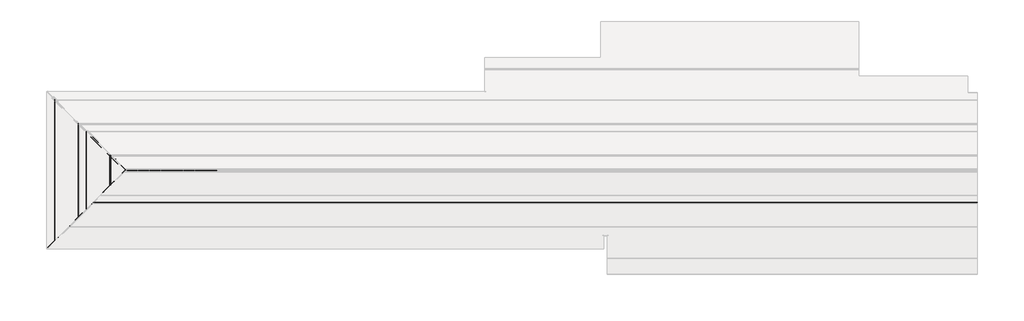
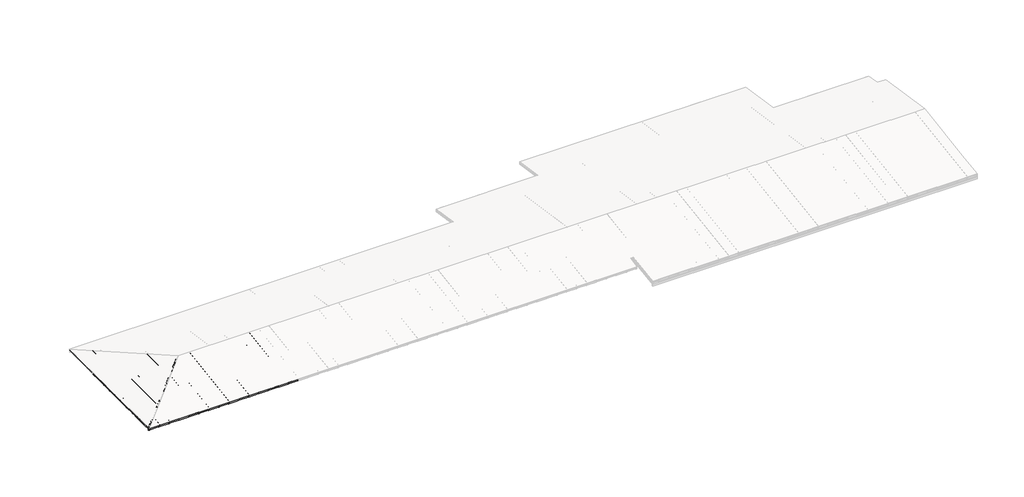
# One storey, part 1 of 5: 56 members, 37 plates.
"""IFC4 building model written with IfcOpenShell, lengths in millimetres."""

from ifc_helpers import new_model, si_unit, origin, place, context, project, spatial, transform, mapped, element, save
from components import rectangular_mullion_0ffdd734, rectangular_mullion_81e55232, rectangular_mullion_64da74fe, rectangular_mullion_0475a46f, rectangular_mullion_45a51e1d, rectangular_mullion_8cde0428, rectangular_mullion_8fe6ab02, rectangular_mullion_e4c4dc66, rectangular_mullion_57f3b6e2, rectangular_mullion_6c98cfdc, rectangular_mullion_e8735130, rectangular_mullion_fa2f633c, rectangular_mullion_c4d6ff5f, rectangular_mullion_1419afb8, rectangular_mullion_c7bb4686, rectangular_mullion_a335f213, rectangular_mullion_caibro_4x6_cm_888e0c1b, rectangular_mullion_caibro_4x6_cm_da8d6b15, rectangular_mullion_caibro_4x6_cm_96e98732, rectangular_mullion_caibro_4x6_cm_2be9870d, rectangular_mullion_caibro_4x6_cm_86bc2fbb, rectangular_mullion_caibro_4x6_cm_9a3c8869, rectangular_mullion_caibro_4x6_cm_16606cff, rectangular_mullion_caibro_4x6_cm_d93b65a1, rectangular_mullion_caibro_4x6_cm_0d1ac49e, rectangular_mullion_caibro_4x6_cm_75deec0e, rectangular_mullion_caibro_4x6_cm_75b900af, rectangular_mullion_caibro_4x6_cm_4d9d155b, rectangular_mullion_caibro_4x6_cm_96c7bf39, rectangular_mullion_caibro_4x6_cm_a5e4316e, rectangular_mullion_caibro_4x6_cm_3dae7f36, rectangular_mullion_caibro_4x6_cm_25f7f393, rectangular_mullion_caibro_4x6_cm_f2c0a84d, rectangular_mullion_caibro_4x6_cm_55eea3d4, rectangular_mullion_caibro_4x6_cm_f730ecbf, rectangular_mullion_caibro_4x6_cm_c149d7fa, rectangular_mullion_caibro_4x6_cm_b0cc08a8, rectangular_mullion_caibro_4x6_cm_17af2db9, rectangular_mullion_caibro_4x6_cm_cc310553, empty_system_panel_empty_8327849a, empty_system_panel_empty_315c37db, empty_system_panel_empty_0f261760, empty_system_panel_empty_334c5307, empty_system_panel_empty_69a84613, empty_system_panel_empty_4ea6a34b, empty_system_panel_empty_0b05d41c, empty_system_panel_empty_7d408543, empty_system_panel_empty_653fa539, empty_system_panel_empty_992e3d3a, empty_system_panel_empty_f74433ea, empty_system_panel_empty_6cc5970f, empty_system_panel_empty_aace67a7, empty_system_panel_empty_0e9da7a2, empty_system_panel_empty_76e15c6c, empty_system_panel_empty_e1abd0b2, empty_system_panel_empty_2196ef54, empty_system_panel_empty_0347a2ea, empty_system_panel_empty_725cd480, empty_system_panel_empty_6b93b557, empty_system_panel_empty_4847f3a6, empty_system_panel_empty_bed88d9c, empty_system_panel_empty_a86050da, empty_system_panel_empty_8a2486aa, empty_system_panel_empty_be1a8f4e, empty_system_panel_empty_834a7346, empty_system_panel_empty_bcb058c4, empty_system_panel_empty_7c35c351, empty_system_panel_empty_6031a073, empty_system_panel_empty_f8857084

model = new_model("IFC4")

# Units and contexts
model_context = context("Model", 3, world=origin())
ifc_project = project(units=[si_unit("LENGTHUNIT", "METRE", prefix="MILLI")], contexts=[model_context])

# Site, building, storey
site = spatial("IfcSite", under=ifc_project)
building = spatial("IfcBuilding", under=site)
storey = spatial("IfcBuildingStorey", under=building, Name="NÍVEL 1", Elevation=3400.0)

# Members
placement = place(None, origin())
rectangular_mullion_shape = rectangular_mullion_0ffdd734(model_context)
element("IfcMember", 1, ObjectType="Rectangular Mullion : RIPA 4x2 cm", at=placement, inside=storey, context=model_context, shape_type="MappedRepresentation", body=[
    mapped(rectangular_mullion_shape, transform((-23257.5493641, -8702.2297096, 3289.7251068), x_axis=(-0.9889363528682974, 0.0, -0.14834045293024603), y_axis=(0.14834045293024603, 0.0, -0.9889363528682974), z_axis=(0.0, -1.0, 0.0))),
])
rectangular_mullion_2_shape = rectangular_mullion_81e55232(model_context)
element("IfcMember", 2, ObjectType="Rectangular Mullion : RIPA 4x2 cm", at=placement, inside=storey, context=model_context, shape_type="MappedRepresentation", body=[
    mapped(rectangular_mullion_2_shape, transform((-22968.0937883, -8412.7741338, 3333.1434432), x_axis=(0.0, 0.9889363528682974, 0.1483404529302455), y_axis=(0.0, 0.1483404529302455, -0.9889363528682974), z_axis=(-1.0, 0.0, 0.0))),
])
rectangular_mullion_3_shape = rectangular_mullion_64da74fe(model_context)
element("IfcMember", 3, ObjectType="Rectangular Mullion : RIPA 4x2 cm", at=placement, inside=storey, context=model_context, shape_type="MappedRepresentation", body=[
    mapped(rectangular_mullion_3_shape, transform((-22621.9660648, -8066.6464103, 3385.0626017), x_axis=(0.0, 0.9889363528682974, 0.1483404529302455), y_axis=(0.0, 0.1483404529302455, -0.9889363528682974), z_axis=(-1.0, 0.0, 0.0))),
])
rectangular_mullion_4_shape = rectangular_mullion_0475a46f(model_context)
element("IfcMember", 4, ObjectType="Rectangular Mullion : RIPA 4x2 cm", at=placement, inside=storey, context=model_context, shape_type="MappedRepresentation", body=[
    mapped(rectangular_mullion_4_shape, transform((-22275.8383413, -7720.5186868, 3436.9817602), x_axis=(0.0, 0.9889363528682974, 0.1483404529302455), y_axis=(0.0, 0.1483404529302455, -0.9889363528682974), z_axis=(-1.0, 0.0, 0.0))),
])
rectangular_mullion_5_shape = rectangular_mullion_45a51e1d(model_context)
element("IfcMember", 5, ObjectType="Rectangular Mullion : RIPA 4x2 cm", at=placement, inside=storey, context=model_context, shape_type="MappedRepresentation", body=[
    mapped(rectangular_mullion_5_shape, transform((-21929.7106178, -7374.3909633, 3488.9009187), x_axis=(0.0, 0.9889363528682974, 0.1483404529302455), y_axis=(0.0, 0.1483404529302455, -0.9889363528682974), z_axis=(-1.0, 0.0, 0.0))),
])
rectangular_mullion_6_shape = rectangular_mullion_8cde0428(model_context)
element("IfcMember", 6, ObjectType="Rectangular Mullion : RIPA 4x2 cm", at=placement, inside=storey, context=model_context, shape_type="MappedRepresentation", body=[
    mapped(rectangular_mullion_6_shape, transform((-21583.5828943, -7028.2632398, 3540.8200773), x_axis=(0.0, 0.9889363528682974, 0.1483404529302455), y_axis=(0.0, 0.1483404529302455, -0.9889363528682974), z_axis=(-1.0, 0.0, 0.0))),
])
rectangular_mullion_7_shape = rectangular_mullion_8fe6ab02(model_context)
element("IfcMember", 7, ObjectType="Rectangular Mullion : RIPA 4x2 cm", at=placement, inside=storey, context=model_context, shape_type="MappedRepresentation", body=[
    mapped(rectangular_mullion_7_shape, transform((-21237.4551708, -6682.1355163, 3592.7392358), x_axis=(0.0, 0.9889363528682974, 0.1483404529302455), y_axis=(0.0, 0.1483404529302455, -0.9889363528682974), z_axis=(-1.0, 0.0, 0.0))),
])
rectangular_mullion_8_shape = rectangular_mullion_e4c4dc66(model_context)
element("IfcMember", 8, ObjectType="Rectangular Mullion : RIPA 4x2 cm", at=placement, inside=storey, context=model_context, shape_type="MappedRepresentation", body=[
    mapped(rectangular_mullion_8_shape, transform((-20891.3274473, -6336.0077928, 3644.6583943), x_axis=(0.0, 0.9889363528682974, 0.1483404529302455), y_axis=(0.0, 0.1483404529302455, -0.9889363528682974), z_axis=(-1.0, 0.0, 0.0))),
])
rectangular_mullion_9_shape = rectangular_mullion_57f3b6e2(model_context)
element("IfcMember", 9, ObjectType="Rectangular Mullion : RIPA 4x2 cm", at=placement, inside=storey, context=model_context, shape_type="MappedRepresentation", body=[
    mapped(rectangular_mullion_9_shape, transform((-20545.1997238, -5989.8800693, 3696.5775528), x_axis=(0.0, 0.9889363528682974, 0.1483404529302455), y_axis=(0.0, 0.1483404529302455, -0.9889363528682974), z_axis=(-1.0, 0.0, 0.0))),
])
rectangular_mullion_10_shape = rectangular_mullion_6c98cfdc(model_context)
element("IfcMember", 10, ObjectType="Rectangular Mullion : RIPA 4x2 cm", at=placement, inside=storey, context=model_context, shape_type="MappedRepresentation", body=[
    mapped(rectangular_mullion_10_shape, transform((-20199.0720003, -5643.7523458, 3748.4967114), x_axis=(0.0, 0.9889363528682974, 0.1483404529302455), y_axis=(0.0, 0.1483404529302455, -0.9889363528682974), z_axis=(-1.0, 0.0, 0.0))),
])
rectangular_mullion_11_shape = rectangular_mullion_e8735130(model_context)
element("IfcMember", 11, ObjectType="Rectangular Mullion : RIPA 4x2 cm", at=placement, inside=storey, context=model_context, shape_type="MappedRepresentation", body=[
    mapped(rectangular_mullion_11_shape, transform((-20814.8765725, -4244.5705918, 3656.1260255), x_axis=(0.9889363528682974, 0.0, 0.14834045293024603), y_axis=(0.14834045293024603, 0.0, -0.9889363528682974), z_axis=(0.0, 1.0, 0.0))),
])
rectangular_mullion_12_shape = rectangular_mullion_fa2f633c(model_context)
element("IfcMember", 12, ObjectType="Rectangular Mullion : RIPA 4x2 cm", at=placement, inside=storey, context=model_context, shape_type="MappedRepresentation", body=[
    mapped(rectangular_mullion_12_shape, transform((-20468.748849, -4590.6983153, 3708.0451841), x_axis=(0.9889363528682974, 0.0, 0.14834045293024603), y_axis=(0.14834045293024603, 0.0, -0.9889363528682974), z_axis=(0.0, 1.0, 0.0))),
])
rectangular_mullion_13_shape = rectangular_mullion_c4d6ff5f(model_context)
element("IfcMember", 13, ObjectType="Rectangular Mullion : RIPA 4x2 cm", at=placement, inside=storey, context=model_context, shape_type="MappedRepresentation", body=[
    mapped(rectangular_mullion_13_shape, transform((-20122.6211255, -4936.8260388, 3759.9643426), x_axis=(0.9889363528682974, 0.0, 0.14834045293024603), y_axis=(0.14834045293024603, 0.0, -0.9889363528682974), z_axis=(0.0, 1.0, 0.0))),
])
rectangular_mullion_14_shape = rectangular_mullion_1419afb8(model_context)
element("IfcMember", 14, ObjectType="Rectangular Mullion : TERÇA 6x12 cm", at=placement, inside=storey, context=model_context, shape_type="MappedRepresentation", body=[
    mapped(rectangular_mullion_14_shape, transform((-21276.1592886, -6740.8396341, 3523.2623729), x_axis=(0.0, 0.9889363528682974, 0.1483404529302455), y_axis=(0.0, 0.1483404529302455, -0.9889363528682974), z_axis=(-1.0, 0.0, 0.0))),
])
rectangular_mullion_15_shape = rectangular_mullion_c7bb4686(model_context)
element("IfcMember", 15, ObjectType="Rectangular Mullion : TERÇA 6x12 cm", at=placement, inside=storey, context=model_context, shape_type="MappedRepresentation", body=[
    mapped(rectangular_mullion_15_shape, transform((-19797.3834094, -5262.0637549, 3745.0787548), x_axis=(0.0, 0.9889363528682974, 0.1483404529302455), y_axis=(0.0, 0.1483404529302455, -0.9889363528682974), z_axis=(-1.0, 0.0, 0.0))),
])
rectangular_mullion_16_shape = rectangular_mullion_a335f213(model_context)
element("IfcMember", 16, ObjectType="Rectangular Mullion : TERÇA 6x12 cm", at=placement, inside=storey, context=model_context, shape_type="MappedRepresentation", body=[
    mapped(rectangular_mullion_16_shape, transform((-22657.5493641, -8122.2297096, 3316.0538615), x_axis=(-0.9889363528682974, 0.0, -0.14834045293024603), y_axis=(0.14834045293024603, 0.0, -0.9889363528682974), z_axis=(0.0, -1.0, 0.0))),
])
rectangular_mullion_caibro_4x6_cm_shape = rectangular_mullion_caibro_4x6_cm_888e0c1b(model_context)
element("IfcMember", 17, ObjectType="Rectangular Mullion : CAIBRO 4x6 cm", at=placement, inside=storey, context=model_context, shape_type="MappedRepresentation", body=[
    mapped(rectangular_mullion_caibro_4x6_cm_shape, transform((-22758.3400232, -8203.0203687, 3364.6065079), x_axis=(1.0, 0.0, 0.0), y_axis=(0.0, 0.14834045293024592, -0.9889363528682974), z_axis=(0.0, 0.9889363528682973, 0.1483404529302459))),
])
rectangular_mullion_caibro_4x6_cm_2_shape = rectangular_mullion_caibro_4x6_cm_da8d6b15(model_context)
element("IfcMember", 18, ObjectType="Rectangular Mullion : CAIBRO 4x6 cm", at=placement, inside=storey, context=model_context, shape_type="MappedRepresentation", body=[
    mapped(rectangular_mullion_caibro_4x6_cm_2_shape, transform((-22259.1306822, -7703.8110278, 3439.4879091), x_axis=(1.0, 0.0, 0.0), y_axis=(0.0, 0.14834045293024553, -0.9889363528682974), z_axis=(0.0, 0.9889363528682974, 0.14834045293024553))),
])
rectangular_mullion_caibro_4x6_cm_3_shape = rectangular_mullion_caibro_4x6_cm_96e98732(model_context)
element("IfcMember", 19, ObjectType="Rectangular Mullion : CAIBRO 4x6 cm", at=placement, inside=storey, context=model_context, shape_type="MappedRepresentation", body=[
    mapped(rectangular_mullion_caibro_4x6_cm_3_shape, transform((-21759.9213413, -7204.6016869, 3514.3693102), x_axis=(1.0, 0.0, 0.0), y_axis=(0.0, 0.14834045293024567, -0.9889363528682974), z_axis=(0.0, 0.9889363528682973, 0.14834045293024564))),
])
rectangular_mullion_caibro_4x6_cm_4_shape = rectangular_mullion_caibro_4x6_cm_2be9870d(model_context)
element("IfcMember", 20, ObjectType="Rectangular Mullion : CAIBRO 4x6 cm", at=placement, inside=storey, context=model_context, shape_type="MappedRepresentation", body=[
    mapped(rectangular_mullion_caibro_4x6_cm_4_shape, transform((-21260.7120004, -6705.3923459, 3589.2507113), x_axis=(1.0, 0.0, 0.0), y_axis=(0.0, 0.14834045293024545, -0.9889363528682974), z_axis=(0.0, 0.9889363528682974, 0.14834045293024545))),
])
rectangular_mullion_caibro_4x6_cm_5_shape = rectangular_mullion_caibro_4x6_cm_86bc2fbb(model_context)
element("IfcMember", 21, ObjectType="Rectangular Mullion : CAIBRO 4x6 cm", at=placement, inside=storey, context=model_context, shape_type="MappedRepresentation", body=[
    mapped(rectangular_mullion_caibro_4x6_cm_5_shape, transform((-20761.5026595, -6206.183005, 3664.1321125), x_axis=(1.0, 0.0, 0.0), y_axis=(0.0, 0.14834045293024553, -0.9889363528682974), z_axis=(0.0, 0.9889363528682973, 0.1483404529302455))),
])
rectangular_mullion_caibro_4x6_cm_6_shape = rectangular_mullion_caibro_4x6_cm_9a3c8869(model_context)
element("IfcMember", 22, ObjectType="Rectangular Mullion : CAIBRO 4x6 cm", at=placement, inside=storey, context=model_context, shape_type="MappedRepresentation", body=[
    mapped(rectangular_mullion_caibro_4x6_cm_6_shape, transform((-20262.2933186, -5706.9736641, 3739.0135136), x_axis=(1.0, 0.0, 0.0), y_axis=(0.0, 0.14834045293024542, -0.9889363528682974), z_axis=(0.0, 0.9889363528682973, 0.1483404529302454))),
])
rectangular_mullion_caibro_4x6_cm_7_shape = rectangular_mullion_caibro_4x6_cm_16606cff(model_context)
element("IfcMember", 23, ObjectType="Rectangular Mullion : CAIBRO 4x6 cm", at=placement, inside=storey, context=model_context, shape_type="MappedRepresentation", body=[
    mapped(rectangular_mullion_caibro_4x6_cm_7_shape, transform((-20793.1451107, -4266.3020535, 3659.3857448), x_axis=(0.0, -1.0, 0.0), y_axis=(0.14834045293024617, 0.0, -0.9889363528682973), z_axis=(0.9889363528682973, 0.0, 0.14834045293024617))),
])
rectangular_mullion_caibro_4x6_cm_8_shape = rectangular_mullion_caibro_4x6_cm_d93b65a1(model_context)
element("IfcMember", 24, ObjectType="Rectangular Mullion : CAIBRO 4x6 cm", at=placement, inside=storey, context=model_context, shape_type="MappedRepresentation", body=[
    mapped(rectangular_mullion_caibro_4x6_cm_8_shape, transform((-20300.26426, -4759.1829042, 3733.3178724), x_axis=(0.0, -1.0, 0.0), y_axis=(0.1483404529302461, 0.0, -0.9889363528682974), z_axis=(0.9889363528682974, 0.0, 0.1483404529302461))),
])
rectangular_mullion_caibro_4x6_cm_9_shape = rectangular_mullion_caibro_4x6_cm_0d1ac49e(model_context)
element("IfcMember", 25, ObjectType="Rectangular Mullion : CAIBRO 4x6 cm", at=placement, inside=storey, context=model_context, shape_type="MappedRepresentation", body=[
    mapped(rectangular_mullion_caibro_4x6_cm_9_shape, transform((-19807.3834094, -5252.0637549, 3807.25), x_axis=(0.0, -1.0, 0.0), y_axis=(0.14834045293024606, 0.0, -0.9889363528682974), z_axis=(0.9889363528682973, 0.0, 0.14834045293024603))),
])
rectangular_mullion_caibro_4x6_cm_10_shape = rectangular_mullion_caibro_4x6_cm_75deec0e(model_context)
element("IfcMember", 26, ObjectType="Rectangular Mullion : CAIBRO 4x6 cm", at=placement, inside=storey, context=model_context, shape_type="MappedRepresentation", body=[
    mapped(rectangular_mullion_caibro_4x6_cm_10_shape, transform((-20300.26426, -5744.9446056, 3733.3178724), x_axis=(0.0, -1.0, 0.0), y_axis=(0.1483404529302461, 0.0, -0.9889363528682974), z_axis=(0.9889363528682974, 0.0, 0.1483404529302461))),
])
rectangular_mullion_caibro_4x6_cm_11_shape = rectangular_mullion_caibro_4x6_cm_75b900af(model_context)
element("IfcMember", 27, ObjectType="Rectangular Mullion : CAIBRO 4x6 cm", at=placement, inside=storey, context=model_context, shape_type="MappedRepresentation", body=[
    mapped(rectangular_mullion_caibro_4x6_cm_11_shape, transform((-20793.1451107, -6237.8254562, 3659.3857448), x_axis=(0.0, -1.0, 0.0), y_axis=(0.14834045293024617, 0.0, -0.9889363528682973), z_axis=(0.9889363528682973, 0.0, 0.14834045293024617))),
])
rectangular_mullion_caibro_4x6_cm_12_shape = rectangular_mullion_caibro_4x6_cm_4d9d155b(model_context)
element("IfcMember", 28, ObjectType="Rectangular Mullion : CAIBRO 4x6 cm", at=placement, inside=storey, context=model_context, shape_type="MappedRepresentation", body=[
    mapped(rectangular_mullion_caibro_4x6_cm_12_shape, transform((-21286.0259614, -6730.7063069, 3585.4536172), x_axis=(0.0, -1.0, 0.0), y_axis=(0.14834045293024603, 0.0, -0.9889363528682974), z_axis=(0.9889363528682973, 0.0, 0.148340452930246))),
])
rectangular_mullion_caibro_4x6_cm_13_shape = rectangular_mullion_caibro_4x6_cm_96c7bf39(model_context)
element("IfcMember", 29, ObjectType="Rectangular Mullion : CAIBRO 4x6 cm", at=placement, inside=storey, context=model_context, shape_type="MappedRepresentation", body=[
    mapped(rectangular_mullion_caibro_4x6_cm_13_shape, transform((-21778.9068121, -7223.5871576, 3511.5214896), x_axis=(0.0, -1.0, 0.0), y_axis=(0.14834045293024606, 0.0, -0.9889363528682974), z_axis=(0.9889363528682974, 0.0, 0.14834045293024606))),
])
rectangular_mullion_caibro_4x6_cm_14_shape = rectangular_mullion_caibro_4x6_cm_a5e4316e(model_context)
element("IfcMember", 30, ObjectType="Rectangular Mullion : CAIBRO 4x6 cm", at=placement, inside=storey, context=model_context, shape_type="MappedRepresentation", body=[
    mapped(rectangular_mullion_caibro_4x6_cm_14_shape, transform((-22271.7876627, -7716.4680082, 3437.589362), x_axis=(0.0, -1.0, 0.0), y_axis=(0.1483404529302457, 0.0, -0.9889363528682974), z_axis=(0.9889363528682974, 0.0, 0.1483404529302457))),
])
rectangular_mullion_caibro_4x6_cm_15_shape = rectangular_mullion_caibro_4x6_cm_3dae7f36(model_context)
element("IfcMember", 31, ObjectType="Rectangular Mullion : CAIBRO 4x6 cm", at=placement, inside=storey, context=model_context, shape_type="MappedRepresentation", body=[
    mapped(rectangular_mullion_caibro_4x6_cm_15_shape, transform((-22764.6685134, -8209.3488589, 3363.6572344), x_axis=(0.0, -1.0, 0.0), y_axis=(0.1483404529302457, 0.0, -0.9889363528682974), z_axis=(0.9889363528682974, 0.0, 0.1483404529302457))),
])
rectangular_mullion_caibro_4x6_cm_16_shape = rectangular_mullion_caibro_4x6_cm_25f7f393(model_context)
element("IfcMember", 32, ObjectType="Rectangular Mullion : CAIBRO 4x6 cm", at=placement, inside=storey, context=model_context, shape_type="MappedRepresentation", body=[
    mapped(rectangular_mullion_caibro_4x6_cm_16_shape, transform((-20262.2933186, -4797.1538456, 3739.0135136), x_axis=(-1.0, 0.0, 0.0), y_axis=(0.0, -0.14834045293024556, -0.9889363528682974), z_axis=(0.0, -0.9889363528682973, 0.14834045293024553))),
])
rectangular_mullion_caibro_4x6_cm_17_shape = rectangular_mullion_caibro_4x6_cm_f2c0a84d(model_context)
element("IfcMember", 33, ObjectType="Rectangular Mullion : CAIBRO 4x6 cm", at=placement, inside=storey, context=model_context, shape_type="MappedRepresentation", body=[
    mapped(rectangular_mullion_caibro_4x6_cm_17_shape, transform((-20761.5026595, -4297.9445047, 3664.1321125), x_axis=(-1.0, 0.0, 0.0), y_axis=(0.0, -0.14834045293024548, -0.9889363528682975), z_axis=(0.0, -0.9889363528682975, 0.14834045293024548))),
])
rectangular_mullion_caibro_4x6_cm_18_shape = rectangular_mullion_caibro_4x6_cm_55eea3d4(model_context)
element("IfcMember", 34, ObjectType="Rectangular Mullion : CAIBRO 4x6 cm", at=placement, inside=storey, context=model_context, shape_type="MappedRepresentation", body=[
    mapped(rectangular_mullion_caibro_4x6_cm_18_shape, transform((-23257.5493641, -8702.2297096, 3289.7251068), x_axis=(-0.7110291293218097, 0.6953830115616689, 0.10430745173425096), y_axis=(0.0, 0.1483404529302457, -0.9889363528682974), z_axis=(-0.7031625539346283, -0.7031625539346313, -0.10547438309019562))),
])
rectangular_mullion_caibro_4x6_cm_19_shape = rectangular_mullion_caibro_4x6_cm_f730ecbf(model_context)
element("IfcMember", 35, ObjectType="Rectangular Mullion : CAIBRO 4x6 cm", at=placement, inside=storey, context=model_context, shape_type="MappedRepresentation", body=[
    mapped(rectangular_mullion_caibro_4x6_cm_19_shape, transform((-19807.3834094, -5252.0637549, 3807.25), x_axis=(0.6953830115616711, -0.7110291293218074, 0.10430745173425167), y_axis=(0.14834045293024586, 0.0, -0.9889363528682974), z_axis=(0.7031625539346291, 0.7031625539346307, 0.10547438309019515))),
])
rectangular_mullion_caibro_4x6_cm_20_shape = rectangular_mullion_caibro_4x6_cm_c149d7fa(model_context)
element("IfcMember", 36, ObjectType="Rectangular Mullion : CAIBRO 4x6 cm", at=placement, inside=storey, context=model_context, shape_type="MappedRepresentation", body=[
    mapped(rectangular_mullion_caibro_4x6_cm_20_shape, transform((-19807.3834094, -5252.0637549, 3807.25), x_axis=(-0.7110291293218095, -0.6953830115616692, 0.10430745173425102), y_axis=(0.0, -0.14834045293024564, -0.9889363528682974), z_axis=(0.7031625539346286, -0.7031625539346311, 0.10547438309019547))),
])
element("IfcMember", 37, ObjectType="Rectangular Mullion : CAIBRO 4x6 cm", at=placement, inside=storey, context=model_context, shape_type="MappedRepresentation", body=[
    mapped(rectangular_mullion_caibro_4x6_cm_18_shape, transform((-20262.2933186, -4797.1538456, 3739.0135136), x_axis=(-0.7110291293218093, -0.6953830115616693, 0.10430745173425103), y_axis=(0.0, -0.1483404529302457, -0.9889363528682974), z_axis=(0.7031625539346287, -0.7031625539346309, 0.10547438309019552))),
])
element("IfcMember", 38, ObjectType="Rectangular Mullion : CAIBRO 4x6 cm", at=placement, inside=storey, context=model_context, shape_type="MappedRepresentation", body=[
    mapped(rectangular_mullion_caibro_4x6_cm_18_shape, transform((-20761.5026595, -4297.9445047, 3664.1321125), x_axis=(-0.7110291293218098, -0.6953830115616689, 0.10430745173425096), y_axis=(0.0, -0.14834045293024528, -0.9889363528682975), z_axis=(0.7031625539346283, -0.7031625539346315, 0.10547438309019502))),
])
element("IfcMember", 39, ObjectType="Rectangular Mullion : CAIBRO 4x6 cm", at=placement, inside=storey, context=model_context, shape_type="MappedRepresentation", body=[
    mapped(rectangular_mullion_caibro_4x6_cm_18_shape, transform((-22758.3400232, -8203.0203687, 3364.6065079), x_axis=(-0.7110291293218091, 0.6953830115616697, 0.10430745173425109), y_axis=(0.0, 0.14834045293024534, -0.9889363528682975), z_axis=(-0.7031625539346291, -0.7031625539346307, -0.10547438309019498))),
])
element("IfcMember", 40, ObjectType="Rectangular Mullion : CAIBRO 4x6 cm", at=placement, inside=storey, context=model_context, shape_type="MappedRepresentation", body=[
    mapped(rectangular_mullion_caibro_4x6_cm_18_shape, transform((-22259.1306822, -7703.8110278, 3439.4879091), x_axis=(-0.7110291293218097, 0.6953830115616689, 0.10430745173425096), y_axis=(0.0, 0.1483404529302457, -0.9889363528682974), z_axis=(-0.7031625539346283, -0.7031625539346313, -0.10547438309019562))),
])
element("IfcMember", 41, ObjectType="Rectangular Mullion : CAIBRO 4x6 cm", at=placement, inside=storey, context=model_context, shape_type="MappedRepresentation", body=[
    mapped(rectangular_mullion_caibro_4x6_cm_18_shape, transform((-21759.9213413, -7204.6016869, 3514.3693102), x_axis=(-0.7110291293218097, 0.6953830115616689, 0.10430745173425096), y_axis=(0.0, 0.14834045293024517, -0.9889363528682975), z_axis=(-0.7031625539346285, -0.7031625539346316, -0.10547438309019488))),
])
element("IfcMember", 42, ObjectType="Rectangular Mullion : CAIBRO 4x6 cm", at=placement, inside=storey, context=model_context, shape_type="MappedRepresentation", body=[
    mapped(rectangular_mullion_caibro_4x6_cm_18_shape, transform((-21260.7120004, -6705.3923459, 3589.2507113), x_axis=(-0.7110291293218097, 0.6953830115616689, 0.10430745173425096), y_axis=(0.0, 0.1483404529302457, -0.9889363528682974), z_axis=(-0.7031625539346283, -0.7031625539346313, -0.10547438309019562))),
])
element("IfcMember", 43, ObjectType="Rectangular Mullion : CAIBRO 4x6 cm", at=placement, inside=storey, context=model_context, shape_type="MappedRepresentation", body=[
    mapped(rectangular_mullion_caibro_4x6_cm_18_shape, transform((-20761.5026595, -6206.183005, 3664.1321125), x_axis=(-0.7110291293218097, 0.6953830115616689, 0.10430745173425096), y_axis=(0.0, 0.14834045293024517, -0.9889363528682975), z_axis=(-0.7031625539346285, -0.7031625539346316, -0.10547438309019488))),
])
element("IfcMember", 44, ObjectType="Rectangular Mullion : CAIBRO 4x6 cm", at=placement, inside=storey, context=model_context, shape_type="MappedRepresentation", body=[
    mapped(rectangular_mullion_caibro_4x6_cm_20_shape, transform((-20262.2933186, -5706.9736641, 3739.0135136), x_axis=(-0.7110291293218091, 0.6953830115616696, 0.10430745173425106), y_axis=(0.0, 0.1483404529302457, -0.9889363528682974), z_axis=(-0.703162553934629, -0.7031625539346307, -0.10547438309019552))),
])
rectangular_mullion_caibro_4x6_cm_21_shape = rectangular_mullion_caibro_4x6_cm_b0cc08a8(model_context)
element("IfcMember", 45, ObjectType="Rectangular Mullion : CAIBRO 4x6 cm", at=placement, inside=storey, context=model_context, shape_type="MappedRepresentation", body=[
    mapped(rectangular_mullion_caibro_4x6_cm_21_shape, transform((-20793.1451107, -4266.3020535, 3659.3857448), x_axis=(0.6953830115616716, 0.7110291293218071, 0.10430745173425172), y_axis=(0.1483404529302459, 0.0, -0.9889363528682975), z_axis=(-0.7031625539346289, 0.7031625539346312, -0.1054743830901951))),
])
element("IfcMember", 46, ObjectType="Rectangular Mullion : CAIBRO 4x6 cm", at=placement, inside=storey, context=model_context, shape_type="MappedRepresentation", body=[
    mapped(rectangular_mullion_caibro_4x6_cm_21_shape, transform((-20300.26426, -5744.9446056, 3733.3178724), x_axis=(0.695383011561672, -0.7110291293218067, 0.1043074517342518), y_axis=(0.1483404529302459, 0.0, -0.9889363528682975), z_axis=(0.7031625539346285, 0.7031625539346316, 0.10547438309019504))),
])
element("IfcMember", 47, ObjectType="Rectangular Mullion : CAIBRO 4x6 cm", at=placement, inside=storey, context=model_context, shape_type="MappedRepresentation", body=[
    mapped(rectangular_mullion_caibro_4x6_cm_21_shape, transform((-20793.1451107, -6237.8254562, 3659.3857448), x_axis=(0.6953830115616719, -0.7110291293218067, 0.10430745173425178), y_axis=(0.1483404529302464, 0.0, -0.9889363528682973), z_axis=(0.7031625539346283, 0.7031625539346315, 0.1054743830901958))),
])
element("IfcMember", 48, ObjectType="Rectangular Mullion : CAIBRO 4x6 cm", at=placement, inside=storey, context=model_context, shape_type="MappedRepresentation", body=[
    mapped(rectangular_mullion_caibro_4x6_cm_21_shape, transform((-21286.0259614, -6730.7063069, 3585.4536172), x_axis=(0.6953830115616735, -0.7110291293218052, 0.10430745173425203), y_axis=(0.14834045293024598, 0.0, -0.9889363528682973), z_axis=(0.7031625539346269, 0.7031625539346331, 0.10547438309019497))),
])
element("IfcMember", 49, ObjectType="Rectangular Mullion : CAIBRO 4x6 cm", at=placement, inside=storey, context=model_context, shape_type="MappedRepresentation", body=[
    mapped(rectangular_mullion_caibro_4x6_cm_21_shape, transform((-21778.9068121, -7223.5871576, 3511.5214896), x_axis=(0.6953830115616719, -0.7110291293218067, 0.10430745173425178), y_axis=(0.1483404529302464, 0.0, -0.9889363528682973), z_axis=(0.7031625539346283, 0.7031625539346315, 0.1054743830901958))),
])
element("IfcMember", 50, ObjectType="Rectangular Mullion : CAIBRO 4x6 cm", at=placement, inside=storey, context=model_context, shape_type="MappedRepresentation", body=[
    mapped(rectangular_mullion_caibro_4x6_cm_21_shape, transform((-22271.7876627, -7716.4680082, 3437.589362), x_axis=(0.6953830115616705, -0.7110291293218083, 0.10430745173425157), y_axis=(0.14834045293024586, 0.0, -0.9889363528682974), z_axis=(0.70316255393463, 0.70316255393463, 0.10547438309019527))),
])
rectangular_mullion_caibro_4x6_cm_22_shape = rectangular_mullion_caibro_4x6_cm_17af2db9(model_context)
element("IfcMember", 51, ObjectType="Rectangular Mullion : CAIBRO 4x6 cm", at=placement, inside=storey, context=model_context, shape_type="MappedRepresentation", body=[
    mapped(rectangular_mullion_caibro_4x6_cm_22_shape, transform((-20300.26426, -4759.1829042, 3733.3178724), x_axis=(0.6953830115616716, 0.7110291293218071, 0.10430745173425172), y_axis=(0.1483404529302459, 0.0, -0.9889363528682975), z_axis=(-0.7031625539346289, 0.7031625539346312, -0.1054743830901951))),
])
element("IfcMember", 52, ObjectType="Rectangular Mullion : CAIBRO 4x6 cm", at=placement, inside=storey, context=model_context, shape_type="MappedRepresentation", body=[
    mapped(rectangular_mullion_caibro_4x6_cm_21_shape, transform((-22764.6685134, -8209.3488589, 3363.6572344), x_axis=(0.695383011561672, -0.7110291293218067, 0.1043074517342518), y_axis=(0.1483404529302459, 0.0, -0.9889363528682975), z_axis=(0.7031625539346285, 0.7031625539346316, 0.10547438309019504))),
])
rectangular_mullion_caibro_4x6_cm_23_shape = rectangular_mullion_caibro_4x6_cm_cc310553(model_context)
element("IfcMember", 53, ObjectType="Rectangular Mullion : CAIBRO 4x6 cm", at=placement, inside=storey, context=model_context, shape_type="MappedRepresentation", body=[
    mapped(rectangular_mullion_caibro_4x6_cm_23_shape, transform((-19763.0839777, -5252.0637549, 3807.25), x_axis=(1.0, 0.0, 0.0), y_axis=(0.0, 0.14834045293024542, -0.9889363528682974), z_axis=(0.0, 0.9889363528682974, 0.14834045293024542))),
])
element("IfcMember", 54, ObjectType="Rectangular Mullion : CAIBRO 4x6 cm", at=placement, inside=storey, context=model_context, shape_type="MappedRepresentation", body=[
    mapped(rectangular_mullion_caibro_4x6_cm_23_shape, transform((-19263.8746368, -5252.0637549, 3807.25), x_axis=(1.0, 0.0, 0.0), y_axis=(0.0, 0.14834045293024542, -0.9889363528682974), z_axis=(0.0, 0.9889363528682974, 0.14834045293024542))),
])
element("IfcMember", 55, ObjectType="Rectangular Mullion : CAIBRO 4x6 cm", at=placement, inside=storey, context=model_context, shape_type="MappedRepresentation", body=[
    mapped(rectangular_mullion_caibro_4x6_cm_23_shape, transform((-19263.8746368, -5252.0637549, 3807.25), x_axis=(-1.0, 0.0, 0.0), y_axis=(0.0, -0.14834045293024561, -0.9889363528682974), z_axis=(0.0, -0.9889363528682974, 0.14834045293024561))),
])
element("IfcMember", 56, ObjectType="Rectangular Mullion : CAIBRO 4x6 cm", at=placement, inside=storey, context=model_context, shape_type="MappedRepresentation", body=[
    mapped(rectangular_mullion_caibro_4x6_cm_23_shape, transform((-19763.0839777, -5252.0637549, 3807.25), x_axis=(-1.0, 0.0, 0.0), y_axis=(0.0, -0.14834045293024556, -0.9889363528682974), z_axis=(0.0, -0.9889363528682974, 0.14834045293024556))),
])

# Plates
empty_system_panel_empty_shape = empty_system_panel_empty_8327849a(model_context)
element("IfcPlate", 57, ObjectType="Empty System Panel : Empty", at=placement, inside=storey, context=model_context, shape_type="MappedRepresentation", body=[
    mapped(empty_system_panel_empty_shape, transform((-22989.8164508, -8702.2297096, 3289.7251068), x_axis=(1.0, 0.0, 0.0), y_axis=(0.0, 0.1483404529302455, -0.9889363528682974), z_axis=(0.0, 0.9889363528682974, 0.1483404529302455))),
])
empty_system_panel_empty_2_shape = empty_system_panel_empty_315c37db(model_context)
element("IfcPlate", 58, ObjectType="Empty System Panel : Empty", at=placement, inside=storey, context=model_context, shape_type="MappedRepresentation", body=[
    mapped(empty_system_panel_empty_2_shape, transform((-22508.7353527, -8702.2297096, 3289.7251068), x_axis=(1.0, 0.0, 0.0), y_axis=(0.0, 0.1483404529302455, -0.9889363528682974), z_axis=(0.0, 0.9889363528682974, 0.1483404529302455))),
])
empty_system_panel_empty_3_shape = empty_system_panel_empty_0f261760(model_context)
element("IfcPlate", 59, ObjectType="Empty System Panel : Empty", at=placement, inside=storey, context=model_context, shape_type="MappedRepresentation", body=[
    mapped(empty_system_panel_empty_3_shape, transform((-22009.5260118, -8702.2297096, 3289.7251068), x_axis=(1.0, 0.0, 0.0), y_axis=(0.0, 0.1483404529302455, -0.9889363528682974), z_axis=(0.0, 0.9889363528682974, 0.1483404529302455))),
])
empty_system_panel_empty_4_shape = empty_system_panel_empty_334c5307(model_context)
element("IfcPlate", 60, ObjectType="Empty System Panel : Empty", at=placement, inside=storey, context=model_context, shape_type="MappedRepresentation", body=[
    mapped(empty_system_panel_empty_4_shape, transform((-21510.3166709, -8702.2297096, 3289.7251068), x_axis=(1.0, 0.0, 0.0), y_axis=(0.0, 0.1483404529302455, -0.9889363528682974), z_axis=(0.0, 0.9889363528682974, 0.1483404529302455))),
])
empty_system_panel_empty_5_shape = empty_system_panel_empty_69a84613(model_context)
element("IfcPlate", 61, ObjectType="Empty System Panel : Empty", at=placement, inside=storey, context=model_context, shape_type="MappedRepresentation", body=[
    mapped(empty_system_panel_empty_5_shape, transform((-21011.10733, -8702.2297096, 3289.7251068), x_axis=(1.0, 0.0, 0.0), y_axis=(0.0, 0.1483404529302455, -0.9889363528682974), z_axis=(0.0, 0.9889363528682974, 0.1483404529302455))),
])
empty_system_panel_empty_6_shape = empty_system_panel_empty_4ea6a34b(model_context)
element("IfcPlate", 62, ObjectType="Empty System Panel : Empty", at=placement, inside=storey, context=model_context, shape_type="MappedRepresentation", body=[
    mapped(empty_system_panel_empty_6_shape, transform((-20511.8979891, -8702.2297096, 3289.7251068), x_axis=(1.0, 0.0, 0.0), y_axis=(0.0, 0.1483404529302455, -0.9889363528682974), z_axis=(0.0, 0.9889363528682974, 0.1483404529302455))),
])
empty_system_panel_empty_7_shape = empty_system_panel_empty_0b05d41c(model_context)
element("IfcPlate", 63, ObjectType="Empty System Panel : Empty", at=placement, inside=storey, context=model_context, shape_type="MappedRepresentation", body=[
    mapped(empty_system_panel_empty_7_shape, transform((-20012.6886481, -8702.2297096, 3289.7251068), x_axis=(1.0, 0.0, 0.0), y_axis=(0.0, 0.1483404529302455, -0.9889363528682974), z_axis=(0.0, 0.9889363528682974, 0.1483404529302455))),
])
empty_system_panel_empty_8_shape = empty_system_panel_empty_7d408543(model_context)
element("IfcPlate", 64, ObjectType="Empty System Panel : Empty", at=placement, inside=storey, context=model_context, shape_type="MappedRepresentation", body=[
    mapped(empty_system_panel_empty_8_shape, transform((-19513.4793072, -8702.2297096, 3289.7251068), x_axis=(1.0, 0.0, 0.0), y_axis=(0.0, 0.1483404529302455, -0.9889363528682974), z_axis=(0.0, 0.9889363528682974, 0.1483404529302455))),
])
element("IfcPlate", 65, ObjectType="Empty System Panel : Empty", at=placement, inside=storey, context=model_context, shape_type="MappedRepresentation", body=[
    mapped(empty_system_panel_empty_8_shape, transform((-19014.2699663, -8702.2297096, 3289.7251068), x_axis=(1.0, 0.0, 0.0), y_axis=(0.0, 0.1483404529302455, -0.9889363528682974), z_axis=(0.0, 0.9889363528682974, 0.1483404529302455))),
])
element("IfcPlate", 66, ObjectType="Empty System Panel : Empty", at=placement, inside=storey, context=model_context, shape_type="MappedRepresentation", body=[
    mapped(empty_system_panel_empty_8_shape, transform((-18515.0606254, -8702.2297096, 3289.7251068), x_axis=(1.0, 0.0, 0.0), y_axis=(0.0, 0.1483404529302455, -0.9889363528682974), z_axis=(0.0, 0.9889363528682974, 0.1483404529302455))),
])
element("IfcPlate", 67, ObjectType="Empty System Panel : Empty", at=placement, inside=storey, context=model_context, shape_type="MappedRepresentation", body=[
    mapped(empty_system_panel_empty_8_shape, transform((-18015.8512845, -8702.2297096, 3289.7251068), x_axis=(1.0, 0.0, 0.0), y_axis=(0.0, 0.1483404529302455, -0.9889363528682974), z_axis=(0.0, 0.9889363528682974, 0.1483404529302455))),
])
element("IfcPlate", 68, ObjectType="Empty System Panel : Empty", at=placement, inside=storey, context=model_context, shape_type="MappedRepresentation", body=[
    mapped(empty_system_panel_empty_8_shape, transform((-17516.6419436, -8702.2297096, 3289.7251068), x_axis=(1.0, 0.0, 0.0), y_axis=(0.0, 0.1483404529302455, -0.9889363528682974), z_axis=(0.0, 0.9889363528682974, 0.1483404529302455))),
])
element("IfcPlate", 69, ObjectType="Empty System Panel : Empty", at=placement, inside=storey, context=model_context, shape_type="MappedRepresentation", body=[
    mapped(empty_system_panel_empty_8_shape, transform((-17017.4326027, -8702.2297096, 3289.7251068), x_axis=(1.0, 0.0, 0.0), y_axis=(0.0, 0.1483404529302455, -0.9889363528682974), z_axis=(0.0, 0.9889363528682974, 0.1483404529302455))),
])
element("IfcPlate", 70, ObjectType="Empty System Panel : Empty", at=placement, inside=storey, context=model_context, shape_type="MappedRepresentation", body=[
    mapped(empty_system_panel_empty_8_shape, transform((-16518.2232618, -8702.2297096, 3289.7251068), x_axis=(1.0, 0.0, 0.0), y_axis=(0.0, 0.1483404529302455, -0.9889363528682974), z_axis=(0.0, 0.9889363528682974, 0.1483404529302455))),
])
element("IfcPlate", 71, ObjectType="Empty System Panel : Empty", at=placement, inside=storey, context=model_context, shape_type="MappedRepresentation", body=[
    mapped(empty_system_panel_empty_8_shape, transform((-16019.0139209, -8702.2297096, 3289.7251068), x_axis=(1.0, 0.0, 0.0), y_axis=(0.0, 0.1483404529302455, -0.9889363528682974), z_axis=(0.0, 0.9889363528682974, 0.1483404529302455))),
])
empty_system_panel_empty_9_shape = empty_system_panel_empty_653fa539(model_context)
element("IfcPlate", 72, ObjectType="Empty System Panel : Empty", at=placement, inside=storey, context=model_context, shape_type="MappedRepresentation", body=[
    mapped(empty_system_panel_empty_9_shape, transform((-23257.5493641, -4019.8616282, 3289.7251068), x_axis=(0.0, -1.0, 0.0), y_axis=(0.14834045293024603, 0.0, -0.9889363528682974), z_axis=(0.9889363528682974, 0.0, 0.14834045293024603))),
])
empty_system_panel_empty_10_shape = empty_system_panel_empty_992e3d3a(model_context)
element("IfcPlate", 73, ObjectType="Empty System Panel : Empty", at=placement, inside=storey, context=model_context, shape_type="MappedRepresentation", body=[
    mapped(empty_system_panel_empty_10_shape, transform((-23257.5493641, -4512.7424789, 3289.7251068), x_axis=(0.0, -1.0, 0.0), y_axis=(0.14834045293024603, 0.0, -0.9889363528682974), z_axis=(0.9889363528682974, 0.0, 0.14834045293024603))),
])
empty_system_panel_empty_11_shape = empty_system_panel_empty_f74433ea(model_context)
element("IfcPlate", 74, ObjectType="Empty System Panel : Empty", at=placement, inside=storey, context=model_context, shape_type="MappedRepresentation", body=[
    mapped(empty_system_panel_empty_11_shape, transform((-23257.5493641, -5005.6233295, 3289.7251068), x_axis=(0.0, -1.0, 0.0), y_axis=(0.14834045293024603, 0.0, -0.9889363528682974), z_axis=(0.9889363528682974, 0.0, 0.14834045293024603))),
])
empty_system_panel_empty_12_shape = empty_system_panel_empty_6cc5970f(model_context)
element("IfcPlate", 75, ObjectType="Empty System Panel : Empty", at=placement, inside=storey, context=model_context, shape_type="MappedRepresentation", body=[
    mapped(empty_system_panel_empty_12_shape, transform((-23257.5493641, -5498.5041802, 3289.7251068), x_axis=(0.0, -1.0, 0.0), y_axis=(0.14834045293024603, 0.0, -0.9889363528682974), z_axis=(0.9889363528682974, 0.0, 0.14834045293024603))),
])
empty_system_panel_empty_13_shape = empty_system_panel_empty_aace67a7(model_context)
element("IfcPlate", 76, ObjectType="Empty System Panel : Empty", at=placement, inside=storey, context=model_context, shape_type="MappedRepresentation", body=[
    mapped(empty_system_panel_empty_13_shape, transform((-23257.5493641, -5991.3850309, 3289.7251068), x_axis=(0.0, -1.0, 0.0), y_axis=(0.14834045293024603, 0.0, -0.9889363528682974), z_axis=(0.9889363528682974, 0.0, 0.14834045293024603))),
])
empty_system_panel_empty_14_shape = empty_system_panel_empty_0e9da7a2(model_context)
element("IfcPlate", 77, ObjectType="Empty System Panel : Empty", at=placement, inside=storey, context=model_context, shape_type="MappedRepresentation", body=[
    mapped(empty_system_panel_empty_14_shape, transform((-23257.5493641, -6484.2658816, 3289.7251068), x_axis=(0.0, -1.0, 0.0), y_axis=(0.14834045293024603, 0.0, -0.9889363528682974), z_axis=(0.9889363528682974, 0.0, 0.14834045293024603))),
])
empty_system_panel_empty_15_shape = empty_system_panel_empty_76e15c6c(model_context)
element("IfcPlate", 78, ObjectType="Empty System Panel : Empty", at=placement, inside=storey, context=model_context, shape_type="MappedRepresentation", body=[
    mapped(empty_system_panel_empty_15_shape, transform((-23257.5493641, -6977.1467322, 3289.7251068), x_axis=(0.0, -1.0, 0.0), y_axis=(0.14834045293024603, 0.0, -0.9889363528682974), z_axis=(0.9889363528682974, 0.0, 0.14834045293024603))),
])
empty_system_panel_empty_16_shape = empty_system_panel_empty_e1abd0b2(model_context)
element("IfcPlate", 79, ObjectType="Empty System Panel : Empty", at=placement, inside=storey, context=model_context, shape_type="MappedRepresentation", body=[
    mapped(empty_system_panel_empty_16_shape, transform((-23257.5493641, -7470.0275829, 3289.7251068), x_axis=(0.0, -1.0, 0.0), y_axis=(0.14834045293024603, 0.0, -0.9889363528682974), z_axis=(0.9889363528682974, 0.0, 0.14834045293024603))),
])
empty_system_panel_empty_17_shape = empty_system_panel_empty_2196ef54(model_context)
element("IfcPlate", 80, ObjectType="Empty System Panel : Empty", at=placement, inside=storey, context=model_context, shape_type="MappedRepresentation", body=[
    mapped(empty_system_panel_empty_17_shape, transform((-23257.5493641, -7962.9084336, 3289.7251068), x_axis=(0.0, -1.0, 0.0), y_axis=(0.14834045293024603, 0.0, -0.9889363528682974), z_axis=(0.9889363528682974, 0.0, 0.14834045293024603))),
])
empty_system_panel_empty_18_shape = empty_system_panel_empty_0347a2ea(model_context)
element("IfcPlate", 81, ObjectType="Empty System Panel : Empty", at=placement, inside=storey, context=model_context, shape_type="MappedRepresentation", body=[
    mapped(empty_system_panel_empty_18_shape, transform((-23257.5493641, -8437.6610414, 3289.7251068), x_axis=(0.0, -1.0, 0.0), y_axis=(0.14834045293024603, 0.0, -0.9889363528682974), z_axis=(0.9889363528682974, 0.0, 0.14834045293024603))),
])
empty_system_panel_empty_19_shape = empty_system_panel_empty_725cd480(model_context)
element("IfcPlate", 82, ObjectType="Empty System Panel : Empty", at=placement, inside=storey, context=model_context, shape_type="MappedRepresentation", body=[
    mapped(empty_system_panel_empty_19_shape, transform((-23217.99191, -5252.0637549, 3295.6587249), x_axis=(0.0, -1.0, 0.0), y_axis=(0.14834045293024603, 0.0, -0.9889363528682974), z_axis=(0.9889363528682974, 0.0, 0.14834045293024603))),
])
empty_system_panel_empty_20_shape = empty_system_panel_empty_6b93b557(model_context)
element("IfcPlate", 83, ObjectType="Empty System Panel : Empty", at=placement, inside=storey, context=model_context, shape_type="MappedRepresentation", body=[
    mapped(empty_system_panel_empty_20_shape, transform((-22871.8641865, -5252.0637549, 3347.5778834), x_axis=(0.0, -1.0, 0.0), y_axis=(0.14834045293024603, 0.0, -0.9889363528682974), z_axis=(0.9889363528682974, 0.0, 0.14834045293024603))),
])
empty_system_panel_empty_21_shape = empty_system_panel_empty_4847f3a6(model_context)
element("IfcPlate", 84, ObjectType="Empty System Panel : Empty", at=placement, inside=storey, context=model_context, shape_type="MappedRepresentation", body=[
    mapped(empty_system_panel_empty_21_shape, transform((-22525.7364629, -5252.0637549, 3399.497042), x_axis=(0.0, -1.0, 0.0), y_axis=(0.14834045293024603, 0.0, -0.9889363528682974), z_axis=(0.9889363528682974, 0.0, 0.14834045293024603))),
])
empty_system_panel_empty_22_shape = empty_system_panel_empty_bed88d9c(model_context)
element("IfcPlate", 85, ObjectType="Empty System Panel : Empty", at=placement, inside=storey, context=model_context, shape_type="MappedRepresentation", body=[
    mapped(empty_system_panel_empty_22_shape, transform((-22179.6087394, -5252.0637549, 3451.4162005), x_axis=(0.0, -1.0, 0.0), y_axis=(0.14834045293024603, 0.0, -0.9889363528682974), z_axis=(0.9889363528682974, 0.0, 0.14834045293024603))),
])
empty_system_panel_empty_23_shape = empty_system_panel_empty_a86050da(model_context)
element("IfcPlate", 86, ObjectType="Empty System Panel : Empty", at=placement, inside=storey, context=model_context, shape_type="MappedRepresentation", body=[
    mapped(empty_system_panel_empty_23_shape, transform((-21833.4810159, -5252.0637549, 3503.335359), x_axis=(0.0, -1.0, 0.0), y_axis=(0.14834045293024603, 0.0, -0.9889363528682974), z_axis=(0.9889363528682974, 0.0, 0.14834045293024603))),
])
empty_system_panel_empty_24_shape = empty_system_panel_empty_8a2486aa(model_context)
element("IfcPlate", 87, ObjectType="Empty System Panel : Empty", at=placement, inside=storey, context=model_context, shape_type="MappedRepresentation", body=[
    mapped(empty_system_panel_empty_24_shape, transform((-21487.3532924, -5252.0637549, 3555.2545175), x_axis=(0.0, -1.0, 0.0), y_axis=(0.14834045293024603, 0.0, -0.9889363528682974), z_axis=(0.9889363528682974, 0.0, 0.14834045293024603))),
])
empty_system_panel_empty_25_shape = empty_system_panel_empty_be1a8f4e(model_context)
element("IfcPlate", 88, ObjectType="Empty System Panel : Empty", at=placement, inside=storey, context=model_context, shape_type="MappedRepresentation", body=[
    mapped(empty_system_panel_empty_25_shape, transform((-21141.2255689, -5252.0637549, 3607.1736761), x_axis=(0.0, -1.0, 0.0), y_axis=(0.14834045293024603, 0.0, -0.9889363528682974), z_axis=(0.9889363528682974, 0.0, 0.14834045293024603))),
])
empty_system_panel_empty_26_shape = empty_system_panel_empty_834a7346(model_context)
element("IfcPlate", 89, ObjectType="Empty System Panel : Empty", at=placement, inside=storey, context=model_context, shape_type="MappedRepresentation", body=[
    mapped(empty_system_panel_empty_26_shape, transform((-20795.0978454, -5252.0637549, 3659.0928346), x_axis=(0.0, -1.0, 0.0), y_axis=(0.14834045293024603, 0.0, -0.9889363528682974), z_axis=(0.9889363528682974, 0.0, 0.14834045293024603))),
])
empty_system_panel_empty_27_shape = empty_system_panel_empty_bcb058c4(model_context)
element("IfcPlate", 90, ObjectType="Empty System Panel : Empty", at=placement, inside=storey, context=model_context, shape_type="MappedRepresentation", body=[
    mapped(empty_system_panel_empty_27_shape, transform((-20448.9701219, -5252.0637549, 3711.0119931), x_axis=(0.0, -1.0, 0.0), y_axis=(0.14834045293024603, 0.0, -0.9889363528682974), z_axis=(0.9889363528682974, 0.0, 0.14834045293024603))),
])
empty_system_panel_empty_28_shape = empty_system_panel_empty_7c35c351(model_context)
element("IfcPlate", 91, ObjectType="Empty System Panel : Empty", at=placement, inside=storey, context=model_context, shape_type="MappedRepresentation", body=[
    mapped(empty_system_panel_empty_28_shape, transform((-20102.8423984, -5252.0637549, 3762.9311516), x_axis=(0.0, -1.0, 0.0), y_axis=(0.14834045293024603, 0.0, -0.9889363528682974), z_axis=(0.9889363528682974, 0.0, 0.14834045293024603))),
])
empty_system_panel_empty_29_shape = empty_system_panel_empty_6031a073(model_context)
element("IfcPlate", 92, ObjectType="Empty System Panel : Empty", at=placement, inside=storey, context=model_context, shape_type="MappedRepresentation", body=[
    mapped(empty_system_panel_empty_29_shape, transform((-22538.8770017, -5262.0637549, 3333.8547159), x_axis=(0.0, -1.0, 0.0), y_axis=(0.14834045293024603, 0.0, -0.9889363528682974), z_axis=(0.9889363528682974, 0.0, 0.14834045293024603))),
])
empty_system_panel_empty_30_shape = empty_system_panel_empty_f8857084(model_context)
element("IfcPlate", 93, ObjectType="Empty System Panel : Empty", at=placement, inside=storey, context=model_context, shape_type="MappedRepresentation", body=[
    mapped(empty_system_panel_empty_30_shape, transform((-21108.7940244, -5262.0637549, 3548.3671625), x_axis=(0.0, -1.0, 0.0), y_axis=(0.14834045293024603, 0.0, -0.9889363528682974), z_axis=(0.9889363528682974, 0.0, 0.14834045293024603))),
])

save(model, "model.ifc")
